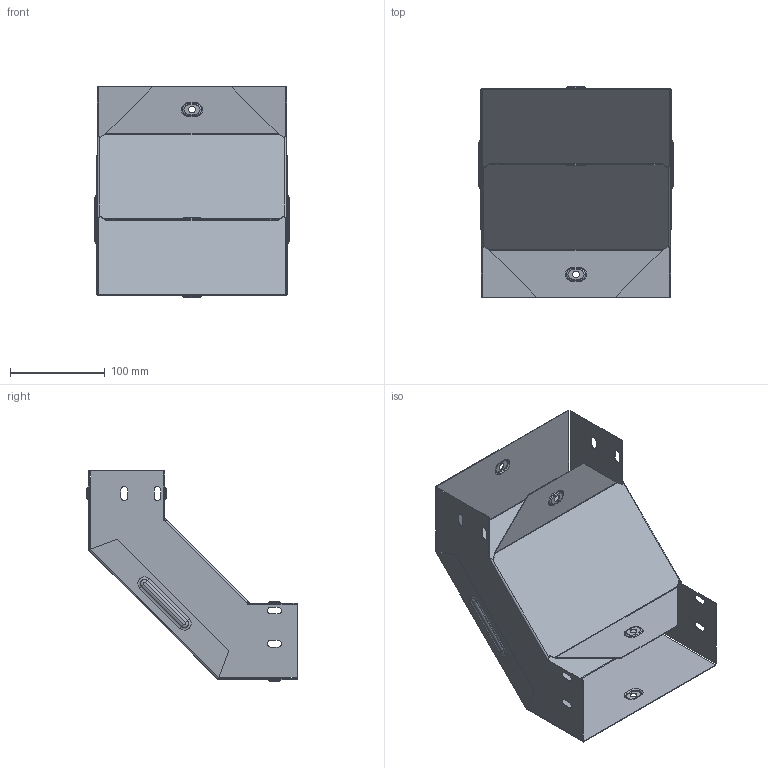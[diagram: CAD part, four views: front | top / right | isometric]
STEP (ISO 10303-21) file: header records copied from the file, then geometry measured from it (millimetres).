
FILE_DESCRIPTION (( 'STEP AP214' ), '1' );
FILE_NAME ('vo9080200_捘.STEP', '2019-06-10T09:08:18', ( '砐錪賧瘔蠈錪 Windows' ), ( '' ), 'SwSTEP 2.0', 'SolidWorks 2018', '' );
FILE_SCHEMA (( 'AUTOMOTIVE_DESIGN' ));
Length unit declared in the file: millimetre
Products named in the file (1): vo9080200_捘
Bounding box: 205.6 x 222.3 x 222.3 mm (x, y, z)
Volume: 132804.6 mm3; surface area: 334669.5 mm2
Topology: 2 solids, 2 shells, 280 faces, 660 edges, 400 vertices
Faces by surface type: cylinder 108, plane 100, torus 64, bspline 8
Entity records: 8251 total; most frequent: CARTESIAN_POINT 1589, DIRECTION 1470, ORIENTED_EDGE 1320, EDGE_CURVE 660, AXIS2_PLACEMENT_3D 569, VERTEX_POINT 400, LINE 332, VECTOR 332
